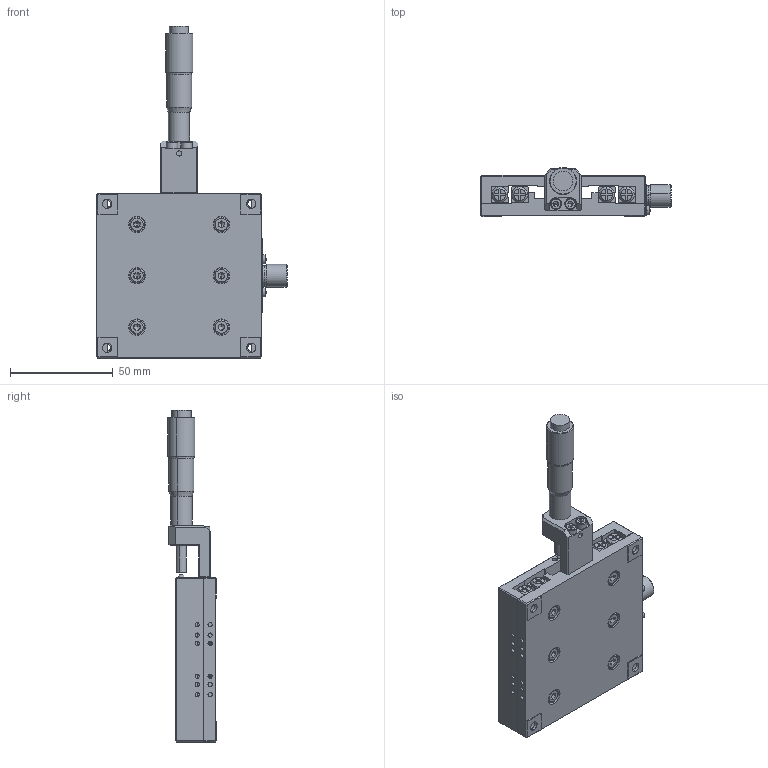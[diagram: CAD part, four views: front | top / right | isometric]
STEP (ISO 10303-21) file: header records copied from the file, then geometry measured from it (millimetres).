
FILE_DESCRIPTION (( 'STEP AP203' ), '1' );
FILE_NAME ('AK25A-8020C.step', '2019-05-09T02:43:50', ( '' ), ( '' ), 'SwSTEP 2.0', 'SolidWorks 2017', '' );
FILE_SCHEMA (( 'CONFIG_CONTROL_DESIGN' ));
Length unit declared in the file: millimetre
Products named in the file (1): AK25A-8020C
Bounding box: 92.5 x 23.61 x 161.5 mm (x, y, z)
Surface area: 47170.7 mm2 (no closed solid volume)
Topology: 0 solids, 34 shells, 700 faces, 2348 edges, 1604 vertices
Faces by surface type: plane 432, cylinder 180, cone 52, torus 30, sphere 6
Entity records: 25453 total; most frequent: CARTESIAN_POINT 4872, DIRECTION 4331, ORIENTED_EDGE 3859, EDGE_CURVE 2315, VERTEX_POINT 1601, VECTOR 1583, LINE 1583, AXIS2_PLACEMENT_3D 1374
